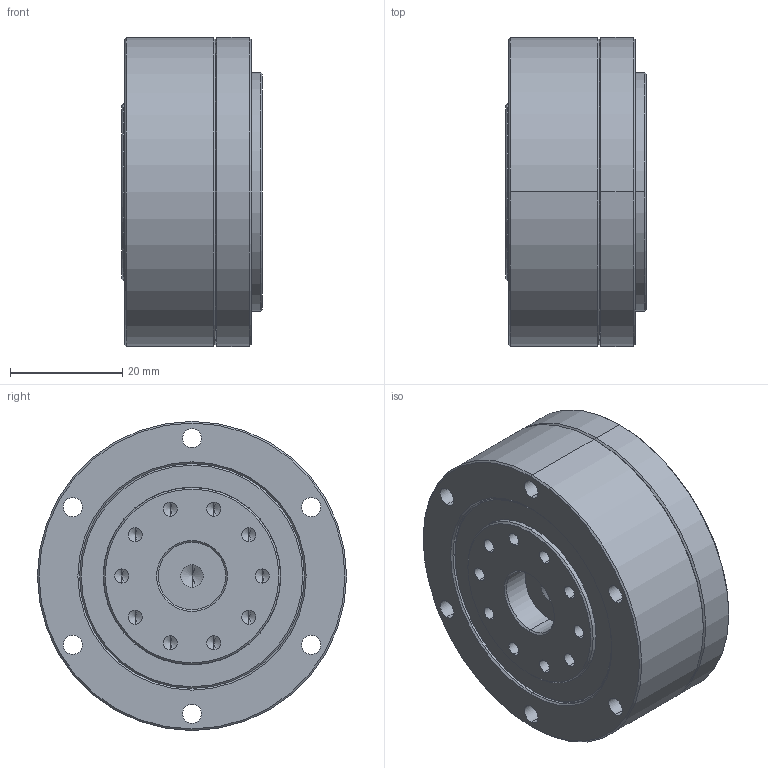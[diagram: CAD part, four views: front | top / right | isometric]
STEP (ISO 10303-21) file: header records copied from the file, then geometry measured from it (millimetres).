
FILE_DESCRIPTION (( 'STEP AP203' ), '1' );
FILE_NAME ('FCD-14-XXX-AJ.STEP', '2022-06-24T02:47:05', ( '微软用户' ), ( '微软中国' ), 'SwSTEP 2.0', 'SolidWorks 2016', '' );
FILE_SCHEMA (( 'CONFIG_CONTROL_DESIGN' ));
Length unit declared in the file: millimetre
Products named in the file (1): FCD-14-XXX-AJ
Bounding box: 25 x 55 x 55 mm (x, y, z)
Volume: 44495.7 mm3; surface area: 33481.2 mm2
Topology: 43 solids, 43 shells, 673 faces, 1613 edges, 998 vertices
Faces by surface type: cylinder 260, plane 177, cone 120, torus 70, sphere 46
Entity records: 18729 total; most frequent: DIRECTION 3674, CARTESIAN_POINT 3059, ORIENTED_EDGE 2912, AXIS2_PLACEMENT_3D 1544, EDGE_CURVE 1456, VERTEX_POINT 929, CIRCLE 870, EDGE_LOOP 801
